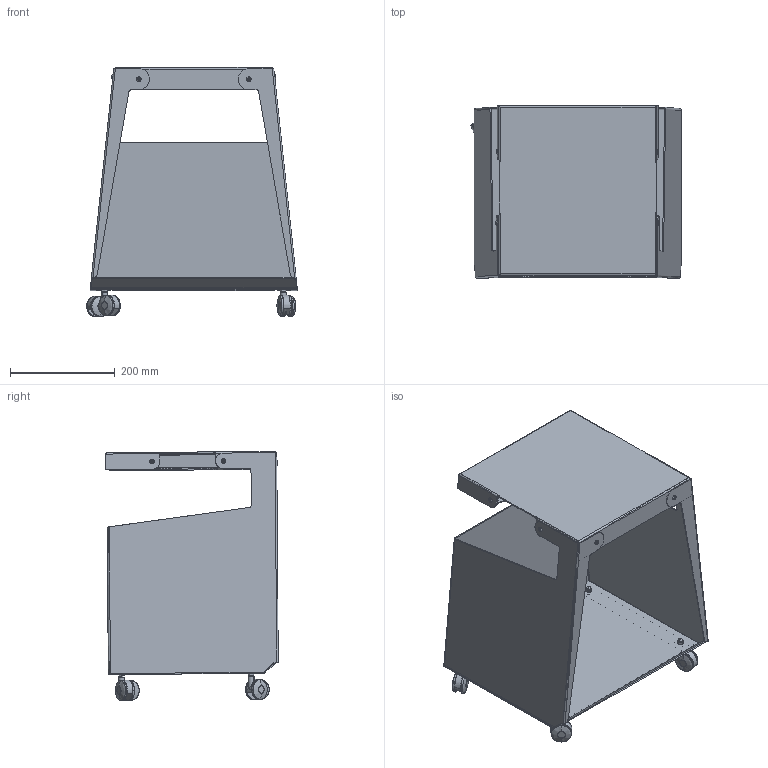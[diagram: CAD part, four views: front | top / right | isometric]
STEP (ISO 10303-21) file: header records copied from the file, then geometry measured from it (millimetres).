
FILE_DESCRIPTION(/* description */ (''),/* implementation_level */ '2;1');
FILE_NAME(/* name */ 'Smith',/* time_stamp */ '2025-07-14T18:09:19+02:00',/* author */ (''),/* organization */ (''),/* preprocessor_version */ 'ST-DEVELOPER v16.5',/* originating_system */ 'Rhino 7.37',/* authorisation */ '');
FILE_SCHEMA (('AUTOMOTIVE_DESIGN'));
Length unit declared in the file: centimetre
Products named in the file (10): Document; InstanceDefinition 09; InstanceDefinition 01; InstanceDefinition 02; InstanceDefinition 03; InstanceDefinition 04; InstanceDefinition 05; InstanceDefinition 06; InstanceDefinition 07; InstanceDefinition 08
Assembly tree (17 placements, depth 3):
  Document
    InstanceDefinition 09
      InstanceDefinition 01  x4
      InstanceDefinition 02
      InstanceDefinition 03
      InstanceDefinition 04  x6
      InstanceDefinition 05
      InstanceDefinition 06
      InstanceDefinition 07
      InstanceDefinition 08
Bounding box: 402.78 x 329.84 x 476.43 mm (x, y, z)
Volume: 1875343.9 mm3; surface area: 1803467.8 mm2
Topology: 26 solids, 26 shells, 644 faces, 1596 edges, 1020 vertices
Faces by surface type: plane 276, cylinder 244, bspline 124
Entity records: 13392 total; most frequent: CARTESIAN_POINT 6300, ORIENTED_EDGE 2032, EDGE_CURVE 1016, VERTEX_POINT 667, B_SPLINE_CURVE_WITH_KNOTS 637, EDGE_LOOP 429, DIRECTION 417, AXIS2_PLACEMENT_3D 382
